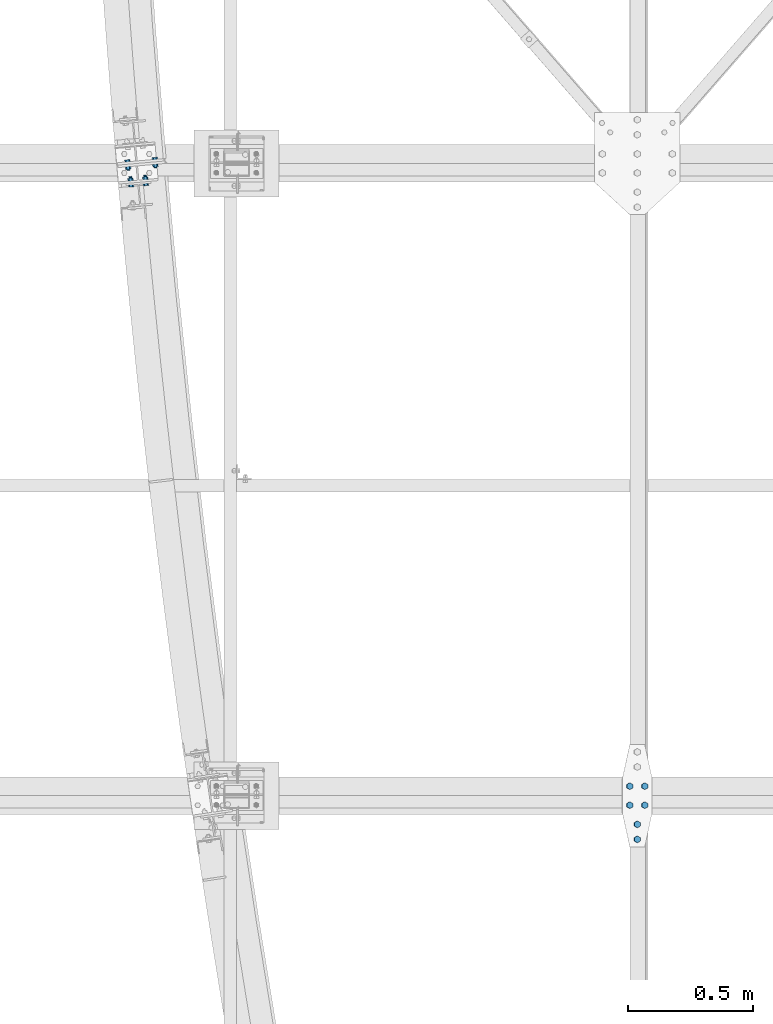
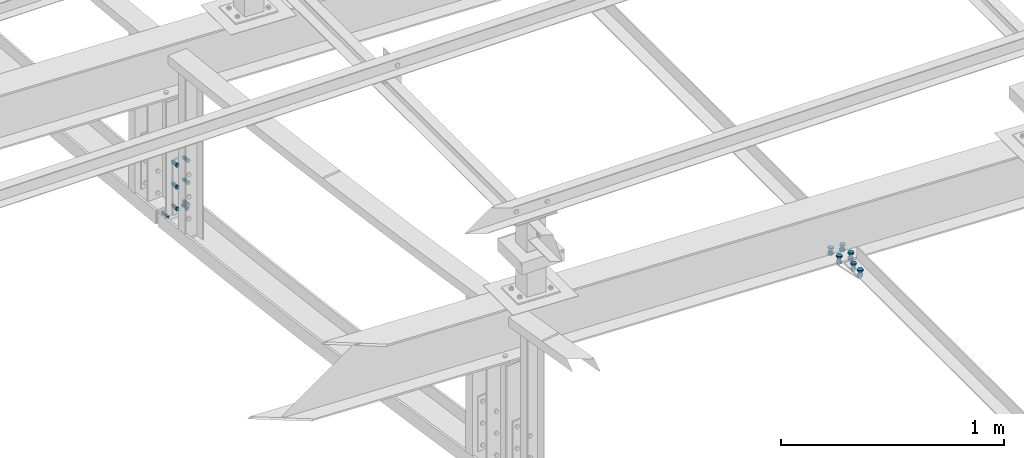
# One storey, part 74 of 3134: 4 mechanical fasteners, 4 elements without a shape of their own.
"""IFC2X3 building model written with IfcOpenShell, lengths in millimetres."""

from ifc_helpers import new_model, si_unit, frame, origin_with_axes, place, context, subcontext, project, spatial, faceted_brep, source, transform, mapped, material, type_object, element, aggregate, save


model = new_model("IFC2X3")

# Units and contexts
model_context = context("Model", 3, precision=1e-05, world=origin_with_axes())
body_context = subcontext(model_context, "Body", "Model", "MODEL_VIEW")
ifc_project = project(units=[si_unit("LENGTHUNIT", "METRE", prefix="MILLI"), si_unit("AREAUNIT", "SQUARE_METRE"), si_unit("VOLUMEUNIT", "CUBIC_METRE"), si_unit("MASSUNIT", "GRAM", prefix="KILO"), si_unit("TIMEUNIT", "SECOND"), si_unit("PLANEANGLEUNIT", "RADIAN"), si_unit("SOLIDANGLEUNIT", "STERADIAN"), si_unit("THERMODYNAMICTEMPERATUREUNIT", "DEGREE_CELSIUS"), si_unit("LUMINOUSINTENSITYUNIT", "LUMEN")], contexts=[model_context])

# Site, building, storey
site_placement = place(None, origin_with_axes())
site = spatial("IfcSite", under=ifc_project, at=site_placement, CompositionType="ELEMENT")
building_placement = place(site_placement, origin_with_axes())
building = spatial("IfcBuilding", under=site, at=building_placement, Name="Undefined", CompositionType="ELEMENT")
storey_placement = place(building_placement, origin_with_axes())
storey = spatial("IfcBuildingStorey", under=building, at=storey_placement, Name="Undefined", CompositionType="ELEMENT", Elevation=0.0)

# Assembly, mechanical fastener
assembly_1_placement = place(storey_placement, origin_with_axes())
assembly_1 = element("IfcElementAssembly", 1, at=assembly_1_placement, inside=storey, Name="HEA160", AssemblyPlace="NOTDEFINED", PredefinedType="RIGID_FRAME")
ifc_material = material(Name="8.8")
mechanical_fastener_type = type_object("IfcMechanicalFastenerType", Name="Bolt assembly")
shared_shape_1 = source(origin_with_axes(), body_context, "Body", "Brep", [
    faceted_brep([(10.9696551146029, -16.0, 0.0), (5.48482755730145, -16.0, 9.5), (-5.48482755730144, -16.0, 9.5), (-10.9696551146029, -16.0, 1.34339530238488e-15), (-5.48482755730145, -16.0, -9.5), (5.48482755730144, -16.0, -9.50000000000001), (5.48482755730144, -8.0, -9.50000000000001), (-5.48482755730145, -8.0, -9.5), (-10.9696551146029, -8.0, 1.34339530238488e-15), (-5.48482755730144, -8.0, 9.5), (5.48482755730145, -8.0, 9.5), (10.9696551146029, -8.0, 0.0), (6.0, -8.0, 0.0), (5.19615242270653, -8.0, 3.00000000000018), (2.99999999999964, -8.0, 5.19615242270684), (-6.21801588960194e-13, -8.0, 6.0), (-3.00000000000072, -8.0, 5.19615242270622), (-5.19615242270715, -8.0, 2.9999999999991), (-6.0, -8.0, -1.24360317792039e-12), (-5.19615242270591, -8.0, -3.00000000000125), (-2.99999999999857, -8.0, -5.19615242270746), (1.85874342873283e-12, -8.0, -6.0), (3.00000000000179, -8.0, -5.1961524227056), (5.19615242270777, -8.0, -2.99999999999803), (5.19615242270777, 27.0, -2.99999999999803), (3.00000000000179, 27.0, -5.1961524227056), (1.85874342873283e-12, 27.0, -6.0), (-2.99999999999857, 27.0, -5.19615242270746), (-5.19615242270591, 27.0, -3.00000000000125), (-6.0, 27.0, -1.24360317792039e-12), (-5.19615242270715, 27.0, 2.9999999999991), (-3.00000000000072, 27.0, 5.19615242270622), (-6.21801588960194e-13, 27.0, 6.0), (2.99999999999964, 27.0, 5.19615242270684), (5.19615242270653, 27.0, 3.00000000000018), (6.0, 27.0, 0.0), (10.9696551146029, 9.00000000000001, 0.0), (5.48482755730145, 9.00000000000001, 9.5), (-5.48482755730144, 9.00000000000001, 9.5), (-10.9696551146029, 9.00000000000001, 1.34339530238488e-15), (-5.48482755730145, 9.00000000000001, -9.5), (5.48482755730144, 9.00000000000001, -9.50000000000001), (5.48482755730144, 19.0, -9.50000000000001), (-5.48482755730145, 19.0, -9.5), (-10.9696551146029, 19.0, 1.34339530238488e-15), (-5.48482755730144, 19.0, 9.5), (5.48482755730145, 19.0, 9.5), (10.9696551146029, 19.0, 0.0)], [[[0, 1, 2, 3, 4, 5]], [[6, 7, 8, 9, 10, 11]], [[0, 11, 10, 1]], [[1, 10, 9, 2]], [[2, 9, 8, 3]], [[3, 8, 7, 4]], [[4, 7, 6, 5]], [[5, 6, 11, 0]], [[12, 13, 14, 15, 16, 17, 18, 19, 20, 21, 22, 23]], [[24, 25, 26, 27, 28, 29, 30, 31, 32, 33, 34, 35]], [[12, 35, 34, 13]], [[13, 34, 33, 14]], [[14, 33, 32, 15]], [[15, 32, 31, 16]], [[16, 31, 30, 17]], [[17, 30, 29, 18]], [[18, 29, 28, 19]], [[19, 28, 27, 20]], [[20, 27, 26, 21]], [[21, 26, 25, 22]], [[22, 25, 24, 23]], [[23, 24, 35, 12]], [[36, 37, 38, 39, 40, 41]], [[42, 43, 44, 45, 46, 47]], [[36, 47, 46, 37]], [[37, 46, 45, 38]], [[38, 45, 44, 39]], [[39, 44, 43, 40]], [[40, 43, 42, 41]], [[41, 42, 47, 36]]]),
    faceted_brep([(7.0, -7.9, 0.0), (6.06217782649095, -7.9, 3.50000000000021), (3.49999999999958, -7.9, 6.06217782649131), (-7.25435187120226e-13, -7.9, 7.0), (-3.50000000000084, -7.9, 6.06217782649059), (-6.06217782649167, -7.9, 3.49999999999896), (-7.0, -7.9, -1.45087037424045e-12), (-6.06217782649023, -7.9, -3.50000000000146), (-3.49999999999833, -7.9, -6.06217782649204), (2.1685340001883e-12, -7.9, -7.0), (3.50000000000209, -7.9, -6.06217782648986), (6.0621778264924, -7.9, -3.4999999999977), (6.0621778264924, 0.0999999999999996, -3.4999999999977), (3.50000000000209, 0.0999999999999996, -6.06217782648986), (2.1685340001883e-12, 0.0999999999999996, -7.0), (-3.49999999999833, 0.0999999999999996, -6.06217782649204), (-6.06217782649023, 0.0999999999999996, -3.50000000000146), (-7.0, 0.0999999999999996, -1.45087037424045e-12), (-6.06217782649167, 0.0999999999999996, 3.49999999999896), (-3.50000000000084, 0.0999999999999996, 6.06217782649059), (-7.25435187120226e-13, 0.0999999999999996, 7.0), (3.49999999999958, 0.0999999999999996, 6.06217782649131), (6.06217782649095, 0.0999999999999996, 3.50000000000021), (7.0, 0.0999999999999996, 0.0), (7.0, -0.1, 0.0), (6.06217782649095, -0.1, 3.50000000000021), (3.49999999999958, -0.1, 6.06217782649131), (-7.25435187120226e-13, -0.1, 7.0), (-3.50000000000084, -0.1, 6.06217782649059), (-6.06217782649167, -0.1, 3.49999999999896), (-7.0, -0.1, -1.45087037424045e-12), (-6.06217782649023, -0.1, -3.50000000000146), (-3.49999999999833, -0.1, -6.06217782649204), (2.1685340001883e-12, -0.1, -7.0), (3.50000000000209, -0.1, -6.06217782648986), (6.0621778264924, -0.1, -3.4999999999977), (6.0621778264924, 9.00000000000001, -3.4999999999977), (3.50000000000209, 9.00000000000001, -6.06217782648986), (2.1685340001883e-12, 9.00000000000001, -7.0), (-3.49999999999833, 9.00000000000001, -6.06217782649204), (-6.06217782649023, 9.00000000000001, -3.50000000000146), (-7.0, 9.00000000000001, -1.45087037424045e-12), (-6.06217782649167, 9.00000000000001, 3.49999999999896), (-3.50000000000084, 9.00000000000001, 6.06217782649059), (-7.25435187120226e-13, 9.00000000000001, 7.0), (3.49999999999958, 9.00000000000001, 6.06217782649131), (6.06217782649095, 9.00000000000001, 3.50000000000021), (7.0, 9.00000000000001, 0.0)], [[[0, 1, 2, 3, 4, 5, 6, 7, 8, 9, 10, 11]], [[12, 13, 14, 15, 16, 17, 18, 19, 20, 21, 22, 23]], [[0, 23, 22, 1]], [[1, 22, 21, 2]], [[2, 21, 20, 3]], [[3, 20, 19, 4]], [[4, 19, 18, 5]], [[5, 18, 17, 6]], [[6, 17, 16, 7]], [[7, 16, 15, 8]], [[8, 15, 14, 9]], [[9, 14, 13, 10]], [[10, 13, 12, 11]], [[11, 12, 23, 0]], [[24, 25, 26, 27, 28, 29, 30, 31, 32, 33, 34, 35]], [[36, 37, 38, 39, 40, 41, 42, 43, 44, 45, 46, 47]], [[24, 47, 46, 25]], [[25, 46, 45, 26]], [[26, 45, 44, 27]], [[27, 44, 43, 28]], [[28, 43, 42, 29]], [[29, 42, 41, 30]], [[30, 41, 40, 31]], [[31, 40, 39, 32]], [[32, 39, 38, 33]], [[33, 38, 37, 34]], [[34, 37, 36, 35]], [[35, 36, 47, 24]]]),
])
mechanical_fastener_1_placement = place(assembly_1_placement, frame((2619.92447992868, 29496.6827134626, 3170.0), z_axis=(0.0, 0.0, 1.0), x_axis=(0.996225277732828, 0.0868055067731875, 0.0)))
mechanical_fastener_1 = element("IfcMechanicalFastener", 2, at=mechanical_fastener_1_placement, type_object=mechanical_fastener_type, material=ifc_material, Name="Bolt assembly", NominalDiameter=12.0, NominalLength=35.0, context=body_context, shape_type="MappedRepresentation", body=[
    mapped(shared_shape_1, transform((0.0, 0.0, -120.0))),
    mapped(shared_shape_1, transform((60.0000000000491, 0.0, -120.0))),
    mapped(shared_shape_1, transform((0.0, 0.0, 0.0))),
    mapped(shared_shape_1, transform((59.9999999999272, 0.0, 5.40239852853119e-10))),
    mapped(shared_shape_1, transform((0.0, 0.0, 120.0))),
    mapped(shared_shape_1, transform((60.0000000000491, 0.0, 120.0))),
])
aggregate(assembly_1, [mechanical_fastener_1])

assembly_2_placement = place(storey_placement, origin_with_axes())
assembly_2 = element("IfcElementAssembly", 3, at=assembly_2_placement, inside=storey, Name="UPN200", AssemblyPlace="NOTDEFINED", PredefinedType="RIGID_FRAME")
shared_shape_2 = source(origin_with_axes(), body_context, "Body", "Brep", [
    faceted_brep([(10.9696551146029, -18.0, 0.0), (5.48482755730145, -18.0, 9.5), (-5.48482755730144, -18.0, 9.5), (-10.9696551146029, -18.0, 1.34339530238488e-15), (-5.48482755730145, -18.0, -9.5), (5.48482755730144, -18.0, -9.50000000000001), (5.48482755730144, -10.0, -9.50000000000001), (-5.48482755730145, -10.0, -9.5), (-10.9696551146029, -10.0, 1.34339530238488e-15), (-5.48482755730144, -10.0, 9.5), (5.48482755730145, -10.0, 9.5), (10.9696551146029, -10.0, 0.0), (6.0, -10.0, 0.0), (5.19615242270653, -10.0, 3.00000000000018), (2.99999999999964, -10.0, 5.19615242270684), (-6.21801588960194e-13, -10.0, 6.0), (-3.00000000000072, -10.0, 5.19615242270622), (-5.19615242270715, -10.0, 2.9999999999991), (-6.0, -10.0, -1.24360317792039e-12), (-5.19615242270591, -10.0, -3.00000000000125), (-2.99999999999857, -10.0, -5.19615242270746), (1.85874342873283e-12, -10.0, -6.0), (3.00000000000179, -10.0, -5.1961524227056), (5.19615242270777, -10.0, -2.99999999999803), (5.19615242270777, 24.9999999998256, -2.99999999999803), (3.00000000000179, 24.9999999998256, -5.1961524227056), (1.85874342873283e-12, 24.9999999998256, -6.0), (-2.99999999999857, 24.9999999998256, -5.19615242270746), (-5.19615242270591, 24.9999999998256, -3.00000000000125), (-6.0, 24.9999999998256, -1.24360317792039e-12), (-5.19615242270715, 24.9999999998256, 2.9999999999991), (-3.00000000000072, 24.9999999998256, 5.19615242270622), (-6.21801588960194e-13, 24.9999999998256, 6.0), (2.99999999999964, 24.9999999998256, 5.19615242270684), (5.19615242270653, 24.9999999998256, 3.00000000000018), (6.0, 24.9999999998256, 0.0), (10.9696551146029, 10.0, 0.0), (5.48482755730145, 10.0, 9.5), (-5.48482755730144, 10.0, 9.5), (-10.9696551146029, 10.0, 1.34339530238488e-15), (-5.48482755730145, 10.0, -9.5), (5.48482755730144, 10.0, -9.50000000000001), (5.48482755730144, 20.0, -9.50000000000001), (-5.48482755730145, 20.0, -9.5), (-10.9696551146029, 20.0, 1.34339530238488e-15), (-5.48482755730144, 20.0, 9.5), (5.48482755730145, 20.0, 9.5), (10.9696551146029, 20.0, 0.0)], [[[0, 1, 2, 3, 4, 5]], [[6, 7, 8, 9, 10, 11]], [[0, 11, 10, 1]], [[1, 10, 9, 2]], [[2, 9, 8, 3]], [[3, 8, 7, 4]], [[4, 7, 6, 5]], [[5, 6, 11, 0]], [[12, 13, 14, 15, 16, 17, 18, 19, 20, 21, 22, 23]], [[24, 25, 26, 27, 28, 29, 30, 31, 32, 33, 34, 35]], [[12, 35, 34, 13]], [[13, 34, 33, 14]], [[14, 33, 32, 15]], [[15, 32, 31, 16]], [[16, 31, 30, 17]], [[17, 30, 29, 18]], [[18, 29, 28, 19]], [[19, 28, 27, 20]], [[20, 27, 26, 21]], [[21, 26, 25, 22]], [[22, 25, 24, 23]], [[23, 24, 35, 12]], [[36, 37, 38, 39, 40, 41]], [[42, 43, 44, 45, 46, 47]], [[36, 47, 46, 37]], [[37, 46, 45, 38]], [[38, 45, 44, 39]], [[39, 44, 43, 40]], [[40, 43, 42, 41]], [[41, 42, 47, 36]]]),
    faceted_brep([(7.0, -0.1, 0.0), (6.06217782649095, -0.1, 3.50000000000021), (3.49999999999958, -0.1, 6.06217782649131), (-7.25435187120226e-13, -0.1, 7.0), (-3.50000000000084, -0.1, 6.06217782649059), (-6.06217782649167, -0.1, 3.49999999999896), (-7.0, -0.1, -1.45087037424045e-12), (-6.06217782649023, -0.1, -3.50000000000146), (-3.49999999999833, -0.1, -6.06217782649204), (2.1685340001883e-12, -0.1, -7.0), (3.50000000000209, -0.1, -6.06217782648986), (6.0621778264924, -0.1, -3.4999999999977), (6.0621778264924, 10.0, -3.4999999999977), (3.50000000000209, 10.0, -6.06217782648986), (2.1685340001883e-12, 10.0, -7.0), (-3.49999999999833, 10.0, -6.06217782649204), (-6.06217782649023, 10.0, -3.50000000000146), (-7.0, 10.0, -1.45087037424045e-12), (-6.06217782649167, 10.0, 3.49999999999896), (-3.50000000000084, 10.0, 6.06217782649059), (-7.25435187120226e-13, 10.0, 7.0), (3.49999999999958, 10.0, 6.06217782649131), (6.06217782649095, 10.0, 3.50000000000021), (7.0, 10.0, 0.0), (7.0, -9.89999913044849, 0.0), (6.06217782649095, -9.89999913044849, 3.50000000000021), (3.49999999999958, -9.89999913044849, 6.06217782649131), (-7.25435187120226e-13, -9.89999913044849, 7.0), (-3.50000000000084, -9.89999913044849, 6.06217782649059), (-6.06217782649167, -9.89999913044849, 3.49999999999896), (-7.0, -9.89999913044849, -1.45087037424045e-12), (-6.06217782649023, -9.89999913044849, -3.50000000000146), (-3.49999999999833, -9.89999913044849, -6.06217782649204), (2.1685340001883e-12, -9.89999913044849, -7.0), (3.50000000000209, -9.89999913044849, -6.06217782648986), (6.0621778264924, -9.89999913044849, -3.4999999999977), (6.0621778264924, 0.0999999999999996, -3.4999999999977), (3.50000000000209, 0.0999999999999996, -6.06217782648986), (2.1685340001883e-12, 0.0999999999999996, -7.0), (-3.49999999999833, 0.0999999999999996, -6.06217782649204), (-6.06217782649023, 0.0999999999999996, -3.50000000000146), (-7.0, 0.0999999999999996, -1.45087037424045e-12), (-6.06217782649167, 0.0999999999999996, 3.49999999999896), (-3.50000000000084, 0.0999999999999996, 6.06217782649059), (-7.25435187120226e-13, 0.0999999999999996, 7.0), (3.49999999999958, 0.0999999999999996, 6.06217782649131), (6.06217782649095, 0.0999999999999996, 3.50000000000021), (7.0, 0.0999999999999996, 0.0)], [[[0, 1, 2, 3, 4, 5, 6, 7, 8, 9, 10, 11]], [[12, 13, 14, 15, 16, 17, 18, 19, 20, 21, 22, 23]], [[0, 23, 22, 1]], [[1, 22, 21, 2]], [[2, 21, 20, 3]], [[3, 20, 19, 4]], [[4, 19, 18, 5]], [[5, 18, 17, 6]], [[6, 17, 16, 7]], [[7, 16, 15, 8]], [[8, 15, 14, 9]], [[9, 14, 13, 10]], [[10, 13, 12, 11]], [[11, 12, 23, 0]], [[24, 25, 26, 27, 28, 29, 30, 31, 32, 33, 34, 35]], [[36, 37, 38, 39, 40, 41, 42, 43, 44, 45, 46, 47]], [[24, 47, 46, 25]], [[25, 46, 45, 26]], [[26, 45, 44, 27]], [[27, 44, 43, 28]], [[28, 43, 42, 29]], [[29, 42, 41, 30]], [[30, 41, 40, 31]], [[31, 40, 39, 32]], [[32, 39, 38, 33]], [[33, 38, 37, 34]], [[34, 37, 36, 35]], [[35, 36, 47, 24]]]),
])
mechanical_fastener_2_placement = place(assembly_2_placement, frame((2717.38089798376, 29581.4650332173, 2969.67191291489), z_axis=(-1.97000019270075e-05, 6.22000060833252e-05, 0.999999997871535), x_axis=(-0.996225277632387, -0.0868055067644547, -1.42000011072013e-05)))
mechanical_fastener_2 = element("IfcMechanicalFastener", 4, at=mechanical_fastener_2_placement, type_object=mechanical_fastener_type, material=ifc_material, Name="Bolt assembly", NominalDiameter=12.0, NominalLength=35.0, context=body_context, shape_type="MappedRepresentation", body=[
    mapped(shared_shape_2, transform((0.0, 0.0, 0.0))),
    mapped(shared_shape_2, transform((110.0, 0.0, 0.0))),
])
aggregate(assembly_2, [mechanical_fastener_2])

assembly_3_placement = place(storey_placement, origin_with_axes())
assembly_3 = element("IfcElementAssembly", 5, at=assembly_3_placement, inside=storey, AssemblyPlace="NOTDEFINED", PredefinedType="RIGID_FRAME")
shared_shape_3 = source(origin_with_axes(), body_context, "Body", "Brep", [
    faceted_brep([(13.856406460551, -21.0000017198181, 0.0), (6.92820323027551, -21.0000017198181, 12.0), (-6.92820323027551, -21.0000017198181, 12.0), (-13.856406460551, -21.0000017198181, 1.69692038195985e-15), (-6.92820323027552, -21.0000017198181, -12.0), (6.9282032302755, -21.0000017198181, -12.0), (6.9282032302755, -11.0000017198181, -12.0), (-6.92820323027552, -11.0000017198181, -12.0), (-13.856406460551, -11.0000017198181, 1.69692038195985e-15), (-6.92820323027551, -11.0000017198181, 12.0), (6.92820323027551, -11.0000017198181, 12.0), (13.856406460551, -11.0000017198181, 0.0), (8.0, -11.0000017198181, 0.0), (6.92820323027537, -11.0000017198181, 4.00000000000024), (3.99999999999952, -11.0000017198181, 6.92820323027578), (-8.29068785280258e-13, -11.0000017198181, 8.0), (-4.00000000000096, -11.0000017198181, 6.92820323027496), (-6.9282032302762, -11.0000017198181, 3.99999999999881), (-8.0, -11.0000017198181, -1.65813757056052e-12), (-6.92820323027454, -11.0000017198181, -4.00000000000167), (-3.99999999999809, -11.0000017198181, -6.92820323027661), (2.47832457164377e-12, -11.0000017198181, -8.0), (4.00000000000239, -11.0000017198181, -6.92820323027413), (6.92820323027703, -11.0000017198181, -3.99999999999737), (6.92820323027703, 23.9999999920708, -3.99999999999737), (4.00000000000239, 23.9999999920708, -6.92820323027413), (2.47832457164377e-12, 23.9999999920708, -8.0), (-3.99999999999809, 23.9999999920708, -6.92820323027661), (-6.92820323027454, 23.9999999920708, -4.00000000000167), (-8.0, 23.9999999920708, -1.65813757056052e-12), (-6.9282032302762, 23.9999999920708, 3.99999999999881), (-4.00000000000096, 23.9999999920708, 6.92820323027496), (-8.29068785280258e-13, 23.9999999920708, 8.0), (3.99999999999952, 23.9999999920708, 6.92820323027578), (6.92820323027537, 23.9999999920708, 4.00000000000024), (8.0, 23.9999999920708, 0.0), (13.856406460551, 3.99999999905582, 0.0), (6.92820323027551, 3.99999999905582, 12.0), (-6.92820323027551, 3.99999999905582, 12.0), (-13.856406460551, 3.99999999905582, 1.69692038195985e-15), (-6.92820323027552, 3.99999999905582, -12.0), (6.9282032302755, 3.99999999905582, -12.0), (6.9282032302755, 16.9999999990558, -12.0), (-6.92820323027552, 16.9999999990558, -12.0), (-13.856406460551, 16.9999999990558, 1.69692038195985e-15), (-6.92820323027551, 16.9999999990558, 12.0), (6.92820323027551, 16.9999999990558, 12.0), (13.856406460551, 16.9999999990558, 0.0)], [[[0, 1, 2, 3, 4, 5]], [[6, 7, 8, 9, 10, 11]], [[0, 11, 10, 1]], [[1, 10, 9, 2]], [[2, 9, 8, 3]], [[3, 8, 7, 4]], [[4, 7, 6, 5]], [[5, 6, 11, 0]], [[12, 13, 14, 15, 16, 17, 18, 19, 20, 21, 22, 23]], [[24, 25, 26, 27, 28, 29, 30, 31, 32, 33, 34, 35]], [[12, 35, 34, 13]], [[13, 34, 33, 14]], [[14, 33, 32, 15]], [[15, 32, 31, 16]], [[16, 31, 30, 17]], [[17, 30, 29, 18]], [[18, 29, 28, 19]], [[19, 28, 27, 20]], [[20, 27, 26, 21]], [[21, 26, 25, 22]], [[22, 25, 24, 23]], [[23, 24, 35, 12]], [[36, 37, 38, 39, 40, 41]], [[42, 43, 44, 45, 46, 47]], [[36, 47, 46, 37]], [[37, 46, 45, 38]], [[38, 45, 44, 39]], [[39, 44, 43, 40]], [[40, 43, 42, 41]], [[41, 42, 47, 36]]]),
    faceted_brep([(9.0, -4.10000000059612, 0.0), (7.79422863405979, -4.10000000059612, 4.50000000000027), (4.49999999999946, -4.10000000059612, 7.79422863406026), (-9.3270238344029e-13, -4.10000000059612, 9.0), (-4.50000000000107, -4.10000000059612, 7.79422863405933), (-7.79422863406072, -4.10000000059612, 4.49999999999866), (-9.0, -4.10000000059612, -1.86540476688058e-12), (-7.79422863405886, -4.10000000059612, -4.50000000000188), (-4.49999999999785, -4.10000000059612, -7.79422863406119), (2.78811514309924e-12, -4.10000000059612, -9.0), (4.50000000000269, -4.10000000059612, -7.7942286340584), (7.79422863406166, -4.10000000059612, -4.49999999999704), (7.79422863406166, 4.00000375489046, -4.49999999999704), (4.50000000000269, 4.00000375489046, -7.7942286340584), (2.78811514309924e-12, 4.00000375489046, -9.0), (-4.49999999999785, 4.00000375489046, -7.79422863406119), (-7.79422863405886, 4.00000375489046, -4.50000000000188), (-9.0, 4.00000375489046, -1.86540476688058e-12), (-7.79422863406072, 4.00000375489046, 4.49999999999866), (-4.50000000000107, 4.00000375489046, 7.79422863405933), (-9.3270238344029e-13, 4.00000375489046, 9.0), (4.49999999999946, 4.00000375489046, 7.79422863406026), (7.79422863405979, 4.00000375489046, 4.50000000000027), (9.0, 4.00000375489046, 0.0), (9.0, -10.9000017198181, 0.0), (7.79422863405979, -10.9000017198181, 4.50000000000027), (4.49999999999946, -10.9000017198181, 7.79422863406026), (-9.3270238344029e-13, -10.9000017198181, 9.0), (-4.50000000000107, -10.9000017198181, 7.79422863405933), (-7.79422863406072, -10.9000017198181, 4.49999999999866), (-9.0, -10.9000017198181, -1.86540476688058e-12), (-7.79422863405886, -10.9000017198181, -4.50000000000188), (-4.49999999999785, -10.9000017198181, -7.79422863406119), (2.78811514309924e-12, -10.9000017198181, -9.0), (4.50000000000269, -10.9000017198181, -7.7942286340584), (7.79422863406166, -10.9000017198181, -4.49999999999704), (7.79422863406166, -3.9, -4.49999999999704), (4.50000000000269, -3.9, -7.7942286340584), (2.78811514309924e-12, -3.9, -9.0), (-4.49999999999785, -3.9, -7.79422863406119), (-7.79422863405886, -3.9, -4.50000000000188), (-9.0, -3.9, -1.86540476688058e-12), (-7.79422863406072, -3.9, 4.49999999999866), (-4.50000000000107, -3.9, 7.79422863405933), (-9.3270238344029e-13, -3.9, 9.0), (4.49999999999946, -3.9, 7.79422863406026), (7.79422863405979, -3.9, 4.50000000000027), (9.0, -3.9, 0.0)], [[[0, 1, 2, 3, 4, 5, 6, 7, 8, 9, 10, 11]], [[12, 13, 14, 15, 16, 17, 18, 19, 20, 21, 22, 23]], [[0, 23, 22, 1]], [[1, 22, 21, 2]], [[2, 21, 20, 3]], [[3, 20, 19, 4]], [[4, 19, 18, 5]], [[5, 18, 17, 6]], [[6, 17, 16, 7]], [[7, 16, 15, 8]], [[8, 15, 14, 9]], [[9, 14, 13, 10]], [[10, 13, 12, 11]], [[11, 12, 23, 0]], [[24, 25, 26, 27, 28, 29, 30, 31, 32, 33, 34, 35]], [[36, 37, 38, 39, 40, 41, 42, 43, 44, 45, 46, 47]], [[24, 47, 46, 25]], [[25, 46, 45, 26]], [[26, 45, 44, 27]], [[27, 44, 43, 28]], [[28, 43, 42, 29]], [[29, 42, 41, 30]], [[30, 41, 40, 31]], [[31, 40, 39, 32]], [[32, 39, 38, 33]], [[33, 38, 37, 34]], [[34, 37, 36, 35]], [[35, 36, 47, 24]]]),
])
mechanical_fastener_3_placement = place(assembly_3_placement, frame((4647.50483525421, 26868.75, 3576.15051901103), z_axis=(-0.999388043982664, 0.0, 0.0349791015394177), x_axis=(0.0, 1.0, 0.0)))
mechanical_fastener_3 = element("IfcMechanicalFastener", 6, at=mechanical_fastener_3_placement, type_object=mechanical_fastener_type, material=ifc_material, Name="Bolt assembly", NominalDiameter=16.0, NominalLength=35.0, context=body_context, shape_type="MappedRepresentation", body=[
    mapped(shared_shape_3, transform((0.0, 0.0, 0.0))),
    mapped(shared_shape_3, transform((59.9999999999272, 0.0, 5.40239852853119e-10))),
])
aggregate(assembly_3, [mechanical_fastener_3])

assembly_4_placement = place(storey_placement, origin_with_axes())
assembly_4 = element("IfcElementAssembly", 7, at=assembly_4_placement, inside=storey, Name="PL8", AssemblyPlace="NOTDEFINED", PredefinedType="RIGID_FRAME")
shared_shape_4 = source(origin_with_axes(), body_context, "Body", "Brep", [
    faceted_brep([(13.856406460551, -23.2000817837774, 0.0), (6.92820323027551, -23.2000817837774, 12.0), (-6.92820323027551, -23.2000817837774, 12.0), (-13.856406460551, -23.2000817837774, 1.69692038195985e-15), (-6.92820323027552, -23.2000817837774, -12.0), (6.9282032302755, -23.2000817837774, -12.0), (6.9282032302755, -13.2000817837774, -12.0), (-6.92820323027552, -13.2000817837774, -12.0), (-13.856406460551, -13.2000817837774, 1.69692038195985e-15), (-6.92820323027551, -13.2000817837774, 12.0), (6.92820323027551, -13.2000817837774, 12.0), (13.856406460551, -13.2000817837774, 0.0), (8.0, -13.2000817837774, 0.0), (6.92820323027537, -13.2000817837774, 4.00000000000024), (3.99999999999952, -13.2000817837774, 6.92820323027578), (-8.29068785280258e-13, -13.2000817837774, 8.0), (-4.00000000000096, -13.2000817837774, 6.92820323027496), (-6.9282032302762, -13.2000817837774, 3.99999999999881), (-8.0, -13.2000817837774, -1.65813757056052e-12), (-6.92820323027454, -13.2000817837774, -4.00000000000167), (-3.99999999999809, -13.2000817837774, -6.92820323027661), (2.47832457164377e-12, -13.2000817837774, -8.0), (4.00000000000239, -13.2000817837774, -6.92820323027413), (6.92820323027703, -13.2000817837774, -3.99999999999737), (6.92820323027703, 21.7999182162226, -3.99999999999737), (4.00000000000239, 21.7999182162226, -6.92820323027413), (2.47832457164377e-12, 21.7999182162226, -8.0), (-3.99999999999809, 21.7999182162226, -6.92820323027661), (-6.92820323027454, 21.7999182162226, -4.00000000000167), (-8.0, 21.7999182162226, -1.65813757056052e-12), (-6.9282032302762, 21.7999182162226, 3.99999999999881), (-4.00000000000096, 21.7999182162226, 6.92820323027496), (-8.29068785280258e-13, 21.7999182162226, 8.0), (3.99999999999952, 21.7999182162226, 6.92820323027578), (6.92820323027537, 21.7999182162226, 4.00000000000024), (8.0, 21.7999182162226, 0.0), (13.856406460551, 3.99999999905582, 0.0), (6.92820323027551, 3.99999999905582, 12.0), (-6.92820323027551, 3.99999999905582, 12.0), (-13.856406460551, 3.99999999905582, 1.69692038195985e-15), (-6.92820323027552, 3.99999999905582, -12.0), (6.9282032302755, 3.99999999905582, -12.0), (6.9282032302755, 16.9999999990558, -12.0), (-6.92820323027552, 16.9999999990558, -12.0), (-13.856406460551, 16.9999999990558, 1.69692038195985e-15), (-6.92820323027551, 16.9999999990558, 12.0), (6.92820323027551, 16.9999999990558, 12.0), (13.856406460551, 16.9999999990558, 0.0)], [[[0, 1, 2, 3, 4, 5]], [[6, 7, 8, 9, 10, 11]], [[0, 11, 10, 1]], [[1, 10, 9, 2]], [[2, 9, 8, 3]], [[3, 8, 7, 4]], [[4, 7, 6, 5]], [[5, 6, 11, 0]], [[12, 13, 14, 15, 16, 17, 18, 19, 20, 21, 22, 23]], [[24, 25, 26, 27, 28, 29, 30, 31, 32, 33, 34, 35]], [[12, 35, 34, 13]], [[13, 34, 33, 14]], [[14, 33, 32, 15]], [[15, 32, 31, 16]], [[16, 31, 30, 17]], [[17, 30, 29, 18]], [[18, 29, 28, 19]], [[19, 28, 27, 20]], [[20, 27, 26, 21]], [[21, 26, 25, 22]], [[22, 25, 24, 23]], [[23, 24, 35, 12]], [[36, 37, 38, 39, 40, 41]], [[42, 43, 44, 45, 46, 47]], [[36, 47, 46, 37]], [[37, 46, 45, 38]], [[38, 45, 44, 39]], [[39, 44, 43, 40]], [[40, 43, 42, 41]], [[41, 42, 47, 36]]]),
    faceted_brep([(9.0, -13.1000817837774, 0.0), (7.79422863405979, -13.1000817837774, 4.50000000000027), (4.49999999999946, -13.1000817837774, 7.79422863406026), (-9.3270238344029e-13, -13.1000817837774, 9.0), (-4.50000000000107, -13.1000817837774, 7.79422863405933), (-7.79422863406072, -13.1000817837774, 4.49999999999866), (-9.0, -13.1000817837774, -1.86540476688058e-12), (-7.79422863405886, -13.1000817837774, -4.50000000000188), (-4.49999999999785, -13.1000817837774, -7.79422863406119), (2.78811514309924e-12, -13.1000817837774, -9.0), (4.50000000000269, -13.1000817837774, -7.7942286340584), (7.79422863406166, -13.1000817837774, -4.49999999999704), (7.79422863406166, -3.90008197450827, -4.49999999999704), (4.50000000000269, -3.90008197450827, -7.7942286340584), (2.78811514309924e-12, -3.90008197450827, -9.0), (-4.49999999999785, -3.90008197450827, -7.79422863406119), (-7.79422863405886, -3.90008197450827, -4.50000000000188), (-9.0, -3.90008197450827, -1.86540476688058e-12), (-7.79422863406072, -3.90008197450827, 4.49999999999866), (-4.50000000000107, -3.90008197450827, 7.79422863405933), (-9.3270238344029e-13, -3.90008197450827, 9.0), (4.49999999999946, -3.90008197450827, 7.79422863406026), (7.79422863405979, -3.90008197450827, 4.50000000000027), (9.0, -3.90008197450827, 0.0), (9.0, -4.10000000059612, 0.0), (7.79422863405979, -4.10000000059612, 4.50000000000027), (4.49999999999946, -4.10000000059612, 7.79422863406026), (-9.3270238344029e-13, -4.10000000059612, 9.0), (-4.50000000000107, -4.10000000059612, 7.79422863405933), (-7.79422863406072, -4.10000000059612, 4.49999999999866), (-9.0, -4.10000000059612, -1.86540476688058e-12), (-7.79422863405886, -4.10000000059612, -4.50000000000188), (-4.49999999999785, -4.10000000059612, -7.79422863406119), (2.78811514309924e-12, -4.10000000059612, -9.0), (4.50000000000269, -4.10000000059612, -7.7942286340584), (7.79422863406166, -4.10000000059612, -4.49999999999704), (7.79422863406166, 4.00000375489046, -4.49999999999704), (4.50000000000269, 4.00000375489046, -7.7942286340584), (2.78811514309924e-12, 4.00000375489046, -9.0), (-4.49999999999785, 4.00000375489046, -7.79422863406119), (-7.79422863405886, 4.00000375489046, -4.50000000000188), (-9.0, 4.00000375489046, -1.86540476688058e-12), (-7.79422863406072, 4.00000375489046, 4.49999999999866), (-4.50000000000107, 4.00000375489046, 7.79422863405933), (-9.3270238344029e-13, 4.00000375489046, 9.0), (4.49999999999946, 4.00000375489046, 7.79422863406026), (7.79422863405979, 4.00000375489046, 4.50000000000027), (9.0, 4.00000375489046, 0.0)], [[[0, 1, 2, 3, 4, 5, 6, 7, 8, 9, 10, 11]], [[12, 13, 14, 15, 16, 17, 18, 19, 20, 21, 22, 23]], [[0, 23, 22, 1]], [[1, 22, 21, 2]], [[2, 21, 20, 3]], [[3, 20, 19, 4]], [[4, 19, 18, 5]], [[5, 18, 17, 6]], [[6, 17, 16, 7]], [[7, 16, 15, 8]], [[8, 15, 14, 9]], [[9, 14, 13, 10]], [[10, 13, 12, 11]], [[11, 12, 23, 0]], [[24, 25, 26, 27, 28, 29, 30, 31, 32, 33, 34, 35]], [[36, 37, 38, 39, 40, 41, 42, 43, 44, 45, 46, 47]], [[24, 47, 46, 25]], [[25, 46, 45, 26]], [[26, 45, 44, 27]], [[27, 44, 43, 28]], [[28, 43, 42, 29]], [[29, 42, 41, 30]], [[30, 41, 40, 31]], [[31, 40, 39, 32]], [[32, 39, 38, 33]], [[33, 38, 37, 34]], [[34, 37, 36, 35]], [[35, 36, 47, 24]]]),
])
mechanical_fastener_4_placement = place(assembly_4_placement, frame((4647.50483518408, 27005.75, 3576.15051901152), z_axis=(-0.999388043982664, 0.0, 0.0349791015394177), x_axis=(0.0, 1.0, 0.0)))
mechanical_fastener_4 = element("IfcMechanicalFastener", 8, at=mechanical_fastener_4_placement, type_object=mechanical_fastener_type, material=ifc_material, Name="Bolt assembly", NominalDiameter=16.0, NominalLength=35.0, context=body_context, shape_type="MappedRepresentation", body=[
    mapped(shared_shape_4, transform((0.0, 4.54747350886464e-13, -30.0000000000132))),
    mapped(shared_shape_4, transform((76.0, -2.00088834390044e-10, -29.9999999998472))),
    mapped(shared_shape_4, transform((0.0, 4.54747350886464e-13, 30.0000000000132))),
    mapped(shared_shape_4, transform((76.0, 1.98269844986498e-10, 29.9999999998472))),
])
aggregate(assembly_4, [mechanical_fastener_4])

save(model, "model.ifc")
